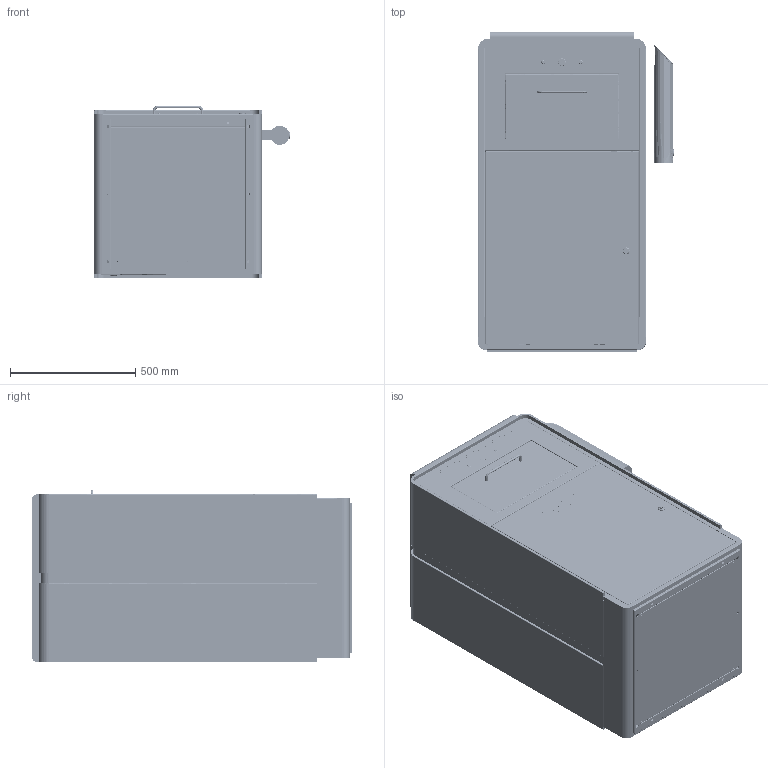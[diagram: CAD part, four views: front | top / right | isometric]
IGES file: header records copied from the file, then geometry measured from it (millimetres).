
Start section: SolidWorks IGES file using analytic representation for surfaces
Global section: file name: I:\(H)\3-(F) ALL MODEL 3D-PRICES\1-ALL MODEL 3D\7-WYB SMART TRASH\WYB2006\WYB2006-FINAL\WYB2006.IGS; native system: SolidWorks 2025; preprocessor: SolidWorks 2025; author: User; date: 251006.111006; units: millimetre
Bounding box: 782 x 1280 x 687.5 mm (x, y, z)
Surface area: 19020265.4 mm2 (no closed solid volume)
Topology: 0 solids, 0 shells, 9498 faces, 112750 edges, 112745 vertices
Faces by surface type: bspline 7244, revolution 2254
